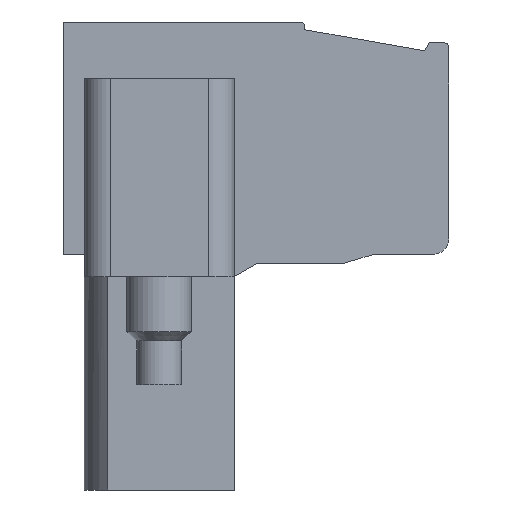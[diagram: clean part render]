
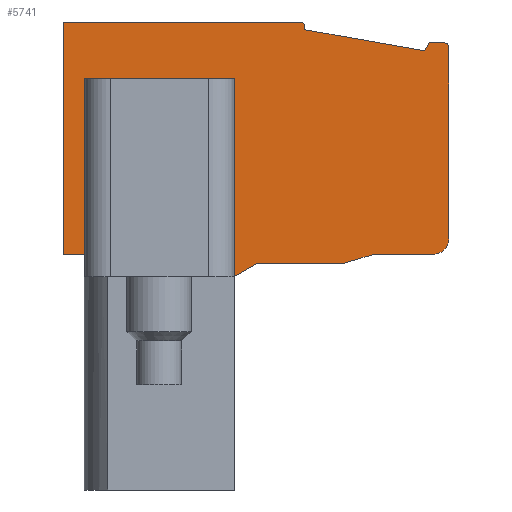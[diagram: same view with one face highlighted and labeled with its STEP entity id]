
A CAD part, front view. The second image highlights one B-rep face of the part: STEP entity #5741.
In plain terms, the highlighted planar face has unit normal (0, -1, 0).
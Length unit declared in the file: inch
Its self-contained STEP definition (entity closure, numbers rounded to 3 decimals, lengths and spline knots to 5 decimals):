
#959=DIRECTION('',(-1.,0.,0.));
#960=VECTOR('',#959,0.3622);
#961=CARTESIAN_POINT('',(0.13472,-1.2145,3.2048));
#962=LINE('',#961,#960);
#963=CARTESIAN_POINT('',(0.13472,-1.2145,3.19693));
#964=DIRECTION('',(0.,-1.,0.));
#965=DIRECTION('',(1.,0.,0.));
#966=AXIS2_PLACEMENT_3D('',#963,#964,#965);
#968=DIRECTION('',(-0.985,0.,0.174));
#969=VECTOR('',#968,0.18603);
#970=CARTESIAN_POINT('',(0.3258,-1.2145,3.16069));
#971=LINE('',#970,#969);
#972=DIRECTION('',(-0.5,0.,-0.866));
#973=VECTOR('',#972,0.01548);
#974=CARTESIAN_POINT('',(0.33354,-1.2145,3.1741));
#975=LINE('',#974,#973);
#976=DIRECTION('',(-0.999,0.,0.044));
#977=VECTOR('',#976,0.02202);
#978=CARTESIAN_POINT('',(0.35553,-1.2145,3.17314));
#979=LINE('',#978,#977);
#980=CARTESIAN_POINT('',(0.35519,-1.2145,3.16527));
#981=DIRECTION('',(0.,-1.,0.));
#982=DIRECTION('',(1.,0.,0.));
#983=AXIS2_PLACEMENT_3D('',#980,#981,#982);
#985=DIRECTION('',(0.,0.,1.));
#986=VECTOR('',#985,0.29235);
#987=CARTESIAN_POINT('',(0.36306,-1.2145,2.87291));
#988=LINE('',#987,#986);
#989=CARTESIAN_POINT('',(0.33944,-1.2145,2.87291));
#990=DIRECTION('',(0.,-1.,0.));
#991=DIRECTION('',(0.,0.,-1.));
#992=AXIS2_PLACEMENT_3D('',#989,#990,#991);
#994=DIRECTION('',(0.958,0.,0.287));
#995=VECTOR('',#994,0.05084);
#996=CARTESIAN_POINT('',(0.20018,-1.2145,2.83473));
#997=LINE('',#996,#995);
#998=DIRECTION('',(0.866,0.,0.5));
#999=VECTOR('',#998,0.03937);
#1000=CARTESIAN_POINT('',(0.03413,-1.2145,2.81504));
#1001=LINE('',#1000,#999);
#1002=DIRECTION('',(1.,0.,0.));
#1003=VECTOR('',#1002,0.03327);
#1004=CARTESIAN_POINT('',(-0.22749,-1.2145,2.84929));
#1005=LINE('',#1004,#1003);
#1006=DIRECTION('',(0.,0.,-1.));
#1007=VECTOR('',#1006,0.35551);
#1008=CARTESIAN_POINT('',(-0.22749,-1.2145,3.2048));
#1009=LINE('',#1008,#1007);
#1010=DIRECTION('',(0.,0.,-1.));
#1011=VECTOR('',#1010,0.00394);
#1012=CARTESIAN_POINT('',(0.14259,-1.2145,3.19693));
#1013=LINE('',#1012,#1011);
#1090=DIRECTION('',(-1.,0.,0.));
#1091=VECTOR('',#1090,0.09055);
#1092=CARTESIAN_POINT('',(0.33944,-1.2145,2.84929));
#1093=LINE('',#1092,#1091);
#1102=DIRECTION('',(-1.,0.,0.));
#1103=VECTOR('',#1102,0.13196);
#1104=CARTESIAN_POINT('',(0.20018,-1.2145,2.83473));
#1105=LINE('',#1104,#1103);
#1522=DIRECTION('',(0.,0.,1.));
#1523=VECTOR('',#1522,0.30315);
#1524=CARTESIAN_POINT('',(0.03413,-1.2145,2.81504));
#1525=LINE('',#1524,#1523);
#1542=DIRECTION('',(0.,0.,-1.));
#1543=VECTOR('',#1542,0.2689);
#1544=CARTESIAN_POINT('',(-0.19422,-1.2145,3.11819));
#1545=LINE('',#1544,#1543);
#1574=DIRECTION('',(-1.,0.,0.));
#1575=VECTOR('',#1574,0.22835);
#1576=CARTESIAN_POINT('',(0.03413,-1.2145,3.11819));
#1577=LINE('',#1576,#1575);
#3487=CARTESIAN_POINT('',(0.33944,-1.2145,2.84929));
#3488=VERTEX_POINT('',#3487);
#3489=CARTESIAN_POINT('',(0.36306,-1.2145,2.87291));
#3490=VERTEX_POINT('',#3489);
#3511=CARTESIAN_POINT('',(0.14259,-1.2145,3.19693));
#3512=VERTEX_POINT('',#3511);
#3513=CARTESIAN_POINT('',(0.13472,-1.2145,3.2048));
#3514=VERTEX_POINT('',#3513);
#3519=CARTESIAN_POINT('',(0.14259,-1.2145,3.19299));
#3520=VERTEX_POINT('',#3519);
#3978=CARTESIAN_POINT('',(0.03413,-1.2145,2.81504));
#3980=VERTEX_POINT('',#3978);
#4057=CARTESIAN_POINT('',(0.20018,-1.2145,2.83473));
#4058=CARTESIAN_POINT('',(0.06822,-1.2145,2.83473));
#4059=VERTEX_POINT('',#4057);
#4060=VERTEX_POINT('',#4058);
#4077=CARTESIAN_POINT('',(0.36306,-1.2145,3.16527));
#4078=VERTEX_POINT('',#4077);
#4079=CARTESIAN_POINT('',(0.35553,-1.2145,3.17314));
#4080=VERTEX_POINT('',#4079);
#4213=CARTESIAN_POINT('',(0.24889,-1.2145,2.84929));
#4214=VERTEX_POINT('',#4213);
#4263=CARTESIAN_POINT('',(-0.22749,-1.2145,3.2048));
#4264=VERTEX_POINT('',#4263);
#4275=CARTESIAN_POINT('',(-0.22749,-1.2145,2.84929));
#4276=VERTEX_POINT('',#4275);
#4277=CARTESIAN_POINT('',(0.3258,-1.2145,3.16069));
#4278=VERTEX_POINT('',#4277);
#4279=CARTESIAN_POINT('',(0.33354,-1.2145,3.1741));
#4280=VERTEX_POINT('',#4279);
#4281=CARTESIAN_POINT('',(0.03413,-1.2145,3.11819));
#4282=VERTEX_POINT('',#4281);
#4283=CARTESIAN_POINT('',(-0.19422,-1.2145,3.11819));
#4284=VERTEX_POINT('',#4283);
#4285=CARTESIAN_POINT('',(-0.19422,-1.2145,2.84929));
#4286=VERTEX_POINT('',#4285);
#5701=CARTESIAN_POINT('',(-1.72012,-1.2145,0.90061));
#5702=DIRECTION('',(0.,1.,0.));
#5703=DIRECTION('',(0.,0.,1.));
#5704=AXIS2_PLACEMENT_3D('',#5701,#5702,#5703);
#5705=PLANE('',#5704);
#5706=ORIENTED_EDGE('',*,*,#4610,.F.);
#5707=ORIENTED_EDGE('',*,*,#4666,.F.);
#5709=ORIENTED_EDGE('',*,*,#5708,.T.);
#5711=ORIENTED_EDGE('',*,*,#5710,.F.);
#5713=ORIENTED_EDGE('',*,*,#5712,.F.);
#5715=ORIENTED_EDGE('',*,*,#5714,.F.);
#5717=ORIENTED_EDGE('',*,*,#5716,.F.);
#5719=ORIENTED_EDGE('',*,*,#5718,.F.);
#5721=ORIENTED_EDGE('',*,*,#5720,.F.);
#5723=ORIENTED_EDGE('',*,*,#5722,.T.);
#5725=ORIENTED_EDGE('',*,*,#5724,.F.);
#5727=ORIENTED_EDGE('',*,*,#5726,.T.);
#5728=ORIENTED_EDGE('',*,*,#5308,.F.);
#5730=ORIENTED_EDGE('',*,*,#5729,.T.);
#5732=ORIENTED_EDGE('',*,*,#5731,.T.);
#5734=ORIENTED_EDGE('',*,*,#5733,.T.);
#5736=ORIENTED_EDGE('',*,*,#5735,.F.);
#5738=ORIENTED_EDGE('',*,*,#5737,.F.);
#5739=EDGE_LOOP('',(#5706,#5707,#5709,#5711,#5713,#5715,#5717,#5719,#5721,#5723,
#5725,#5727,#5728,#5730,#5732,#5734,#5736,#5738));
#5740=FACE_OUTER_BOUND('',#5739,.F.);
#5741=ADVANCED_FACE('',(#5740),#5705,.F.);
#967=CIRCLE('',#966,0.00787);
#984=CIRCLE('',#983,0.00787);
#993=CIRCLE('',#992,0.02362);
#4610=EDGE_CURVE('',#3514,#4264,#962,.T.);
#4666=EDGE_CURVE('',#3512,#3514,#967,.T.);
#5308=EDGE_CURVE('',#3980,#4060,#1001,.T.);
#5708=EDGE_CURVE('',#3512,#3520,#1013,.T.);
#5710=EDGE_CURVE('',#4278,#3520,#971,.T.);
#5712=EDGE_CURVE('',#4280,#4278,#975,.T.);
#5714=EDGE_CURVE('',#4080,#4280,#979,.T.);
#5716=EDGE_CURVE('',#4078,#4080,#984,.T.);
#5718=EDGE_CURVE('',#3490,#4078,#988,.T.);
#5720=EDGE_CURVE('',#3488,#3490,#993,.T.);
#5722=EDGE_CURVE('',#3488,#4214,#1093,.T.);
#5724=EDGE_CURVE('',#4059,#4214,#997,.T.);
#5726=EDGE_CURVE('',#4059,#4060,#1105,.T.);
#5729=EDGE_CURVE('',#3980,#4282,#1525,.T.);
#5731=EDGE_CURVE('',#4282,#4284,#1577,.T.);
#5733=EDGE_CURVE('',#4284,#4286,#1545,.T.);
#5735=EDGE_CURVE('',#4276,#4286,#1005,.T.);
#5737=EDGE_CURVE('',#4264,#4276,#1009,.T.);
